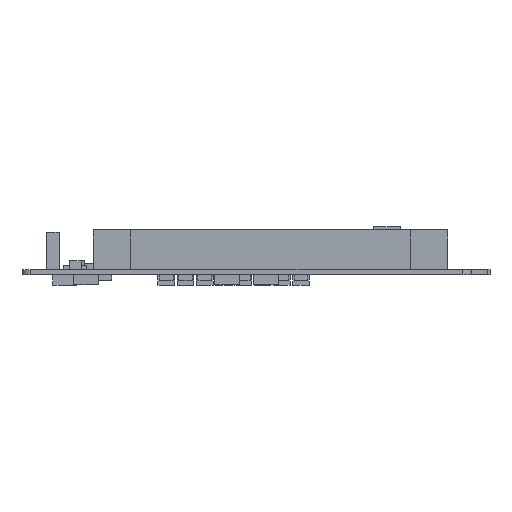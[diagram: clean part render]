
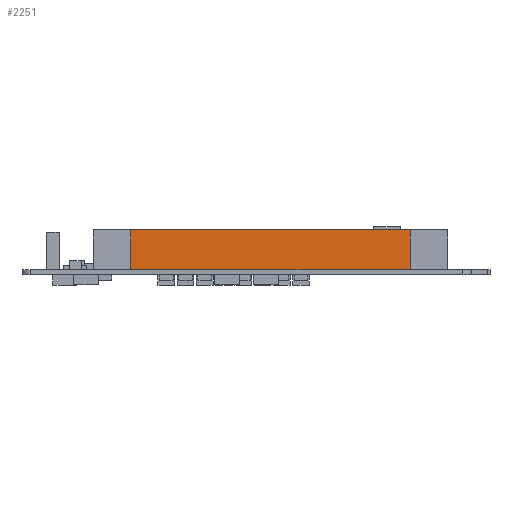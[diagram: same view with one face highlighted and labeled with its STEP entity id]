
A CAD part, left-side view. The second image highlights one B-rep face of the part: STEP entity #2251.
In plain terms, the highlighted planar face has unit normal (-1, 0, 0).
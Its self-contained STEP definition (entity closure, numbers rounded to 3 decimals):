
#1430 = LINE ( 'NONE', #9399, #21616 ) ;
#1562 = DIRECTION ( 'NONE',  ( 0., 0., -1. ) ) ;
#2009 = VERTEX_POINT ( 'NONE', #14707 ) ;
#2251 = ADVANCED_FACE ( 'NONE', ( #7946 ), #9652, .F. ) ;
#2363 = VECTOR ( 'NONE', #18183, 1000. ) ;
#4308 = ORIENTED_EDGE ( 'NONE', *, *, #27911, .F. ) ;
#6518 = VECTOR ( 'NONE', #13835, 1000. ) ;
#7946 = FACE_OUTER_BOUND ( 'NONE', #16334, .T. ) ;
#8054 = AXIS2_PLACEMENT_3D ( 'NONE', #20703, #23452, #1562 ) ;
#8278 = ORIENTED_EDGE ( 'NONE', *, *, #33673, .T. ) ;
#8966 = VERTEX_POINT ( 'NONE', #23218 ) ;
#9399 = CARTESIAN_POINT ( 'NONE',  ( -11.79, -33.225, 0. ) ) ;
#9652 = PLANE ( 'NONE',  #8054 ) ;
#9736 = LINE ( 'NONE', #20468, #2363 ) ;
#13725 = CARTESIAN_POINT ( 'NONE',  ( -11.79, 33.225, 9.5 ) ) ;
#13835 = DIRECTION ( 'NONE',  ( 0., 0., -1. ) ) ;
#14707 = CARTESIAN_POINT ( 'NONE',  ( -11.79, 33.225, 0. ) ) ;
#15355 = EDGE_CURVE ( 'NONE', #8966, #2009, #33096, .T. ) ;
#16334 = EDGE_LOOP ( 'NONE', ( #8278, #33918, #4308, #32083 ) ) ;
#16425 = VERTEX_POINT ( 'NONE', #28663 ) ;
#17121 = VECTOR ( 'NONE', #30699, 1000. ) ;
#18183 = DIRECTION ( 'NONE',  ( 0., 0., -1. ) ) ;
#19707 = LINE ( 'NONE', #30830, #17121 ) ;
#20468 = CARTESIAN_POINT ( 'NONE',  ( -11.79, -33.225, 9.5 ) ) ;
#20703 = CARTESIAN_POINT ( 'NONE',  ( -11.79, -33.225, 9.5 ) ) ;
#20793 = EDGE_CURVE ( 'NONE', #26157, #16425, #9736, .T. ) ;
#21616 = VECTOR ( 'NONE', #25972, 1000. ) ;
#23218 = CARTESIAN_POINT ( 'NONE',  ( -11.79, 33.225, 9.5 ) ) ;
#23452 = DIRECTION ( 'NONE',  ( 1., 0., 0. ) ) ;
#25972 = DIRECTION ( 'NONE',  ( 0., -1., 0. ) ) ;
#26157 = VERTEX_POINT ( 'NONE', #28368 ) ;
#27911 = EDGE_CURVE ( 'NONE', #8966, #26157, #19707, .T. ) ;
#28368 = CARTESIAN_POINT ( 'NONE',  ( -11.79, -33.225, 9.5 ) ) ;
#28663 = CARTESIAN_POINT ( 'NONE',  ( -11.79, -33.225, 0. ) ) ;
#30699 = DIRECTION ( 'NONE',  ( 0., -1., 0. ) ) ;
#30830 = CARTESIAN_POINT ( 'NONE',  ( -11.79, -33.225, 9.5 ) ) ;
#32083 = ORIENTED_EDGE ( 'NONE', *, *, #15355, .T. ) ;
#33096 = LINE ( 'NONE', #13725, #6518 ) ;
#33673 = EDGE_CURVE ( 'NONE', #2009, #16425, #1430, .T. ) ;
#33918 = ORIENTED_EDGE ( 'NONE', *, *, #20793, .F. ) ;
